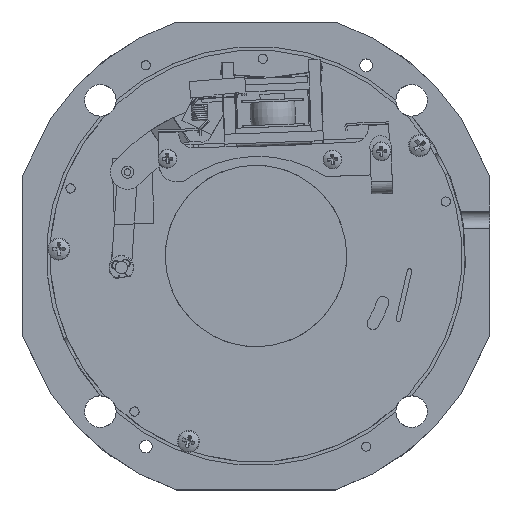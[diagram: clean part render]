
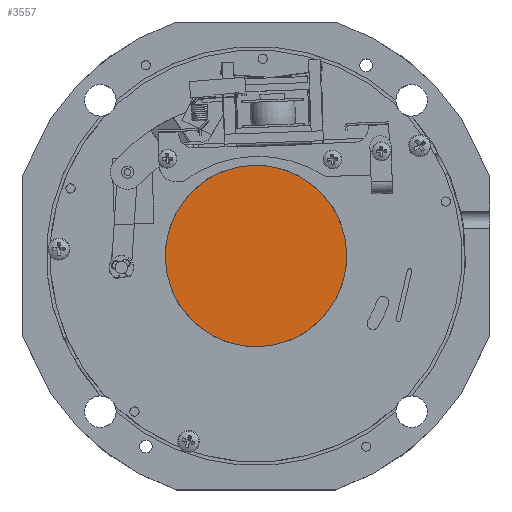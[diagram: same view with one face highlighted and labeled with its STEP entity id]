
A CAD part, top view. The second image highlights one B-rep face of the part: STEP entity #3557.
In plain terms, the highlighted planar face has unit normal (0, 0, 1).
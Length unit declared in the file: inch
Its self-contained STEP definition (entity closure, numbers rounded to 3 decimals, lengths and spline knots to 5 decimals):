
#1071 = AXIS2_PLACEMENT_3D ( 'NONE', #21842, #2788, #5145 ) ;
#1358 = PLANE ( 'NONE',  #1608 ) ;
#1608 = AXIS2_PLACEMENT_3D ( 'NONE', #8885, #8479, #18200 ) ;
#2788 = DIRECTION ( 'NONE',  ( 0., 0., 1. ) ) ;
#3557 = ADVANCED_FACE ( 'NONE', ( #23497 ), #1358, .T. ) ;
#5145 = DIRECTION ( 'NONE',  ( 1., 0., 0. ) ) ;
#6130 = VERTEX_POINT ( 'NONE', #21536 ) ;
#7154 = EDGE_LOOP ( 'NONE', ( #13408 ) ) ;
#8479 = DIRECTION ( 'NONE',  ( 0., 0., 1. ) ) ;
#8885 = CARTESIAN_POINT ( 'NONE',  ( 0., 0., 0.21775 ) ) ;
#10827 = EDGE_CURVE ( 'NONE', #6130, #6130, #18362, .T. ) ;
#13408 = ORIENTED_EDGE ( 'NONE', *, *, #10827, .T. ) ;
#18200 = DIRECTION ( 'NONE',  ( 1., 0., 0. ) ) ;
#18362 = CIRCLE ( 'NONE', #1071, 0.75 ) ;
#21536 = CARTESIAN_POINT ( 'NONE',  ( 0.75, 0., 0.21775 ) ) ;
#21842 = CARTESIAN_POINT ( 'NONE',  ( 0., 0., 0.21775 ) ) ;
#23497 = FACE_OUTER_BOUND ( 'NONE', #7154, .T. ) ;
